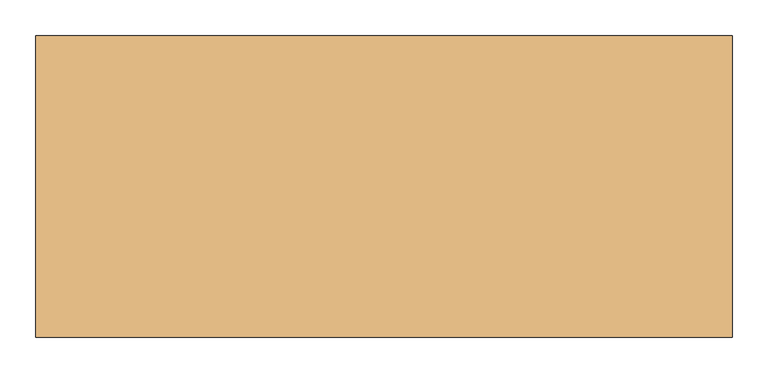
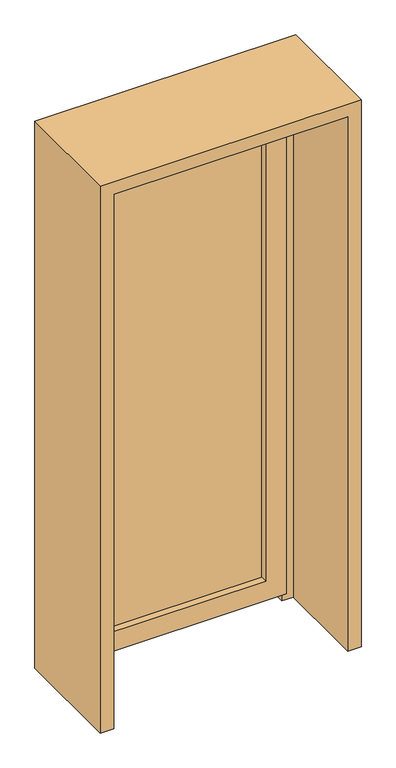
"""IFC4 building model written with IfcOpenShell, lengths in millimetres: door geometry, Внутренняя дверь 1-Навесная - 30970-2002 : ДПВ Г Б Пр 2100-870 ГОСТ 30970-2002."""

from ifc_helpers import new_model, si_unit, frame, origin, place, context, project, spatial, polyline, outline, extrude, faceted_brep, source, transform, mapped, element, save


def door_b74962f7(model_context):
    return source(origin(), model_context, "Body", "SolidModel", [
        extrude(outline(polyline([(-338.0, 183.0), (338.0, 183.0), (338.0, 159.0), (-338.0, 159.0), (-338.0, 183.0)])), frame((0.0, 0.0, 97.0), z_axis=(0.0, 0.0, 1.0), x_axis=(1.0, 0.0, 0.0)), (0.0, 0.0, 1.0), 1906.0),
        faceted_brep([(-323.0, 159.0, 1988.0), (-323.0, 133.0, 1988.0), (-323.0, 133.0, 112.0), (-323.0, 159.0, 112.0), (-338.0, 183.0, 2003.0), (-338.0, 159.0, 2003.0), (-338.0, 159.0, 97.0), (-338.0, 183.0, 97.0), (-323.0, 203.0, 1988.0), (-323.0, 183.0, 1988.0), (-323.0, 183.0, 112.0), (-323.0, 203.0, 112.0), (-380.0, 147.0, 2045.0), (-380.0, 203.0, 2045.0), (-380.0, 203.0, 55.0), (-380.0, 147.0, 55.0), (-400.0, 133.0, 2065.0), (-400.0, 147.0, 2065.0), (-400.0, 147.0, 35.0), (-400.0, 133.0, 35.0), (323.0, 133.0, 112.0), (323.0, 159.0, 112.0), (338.0, 159.0, 97.0), (338.0, 183.0, 97.0), (323.0, 183.0, 112.0), (323.0, 203.0, 112.0), (380.0, 203.0, 55.0), (380.0, 147.0, 55.0), (400.0, 147.0, 35.0), (400.0, 133.0, 35.0), (323.0, 133.0, 1988.0), (323.0, 159.0, 1988.0), (338.0, 159.0, 2003.0), (338.0, 183.0, 2003.0), (323.0, 183.0, 1988.0), (323.0, 203.0, 1988.0), (380.0, 203.0, 2045.0), (380.0, 147.0, 2045.0), (400.0, 147.0, 2065.0), (400.0, 133.0, 2065.0)], [[[0, 1, 2, 3]], [[4, 5, 6, 7]], [[8, 9, 10, 11]], [[12, 13, 14, 15]], [[16, 17, 18, 19]], [[3, 2, 20, 21]], [[7, 6, 22, 23]], [[11, 10, 24, 25]], [[15, 14, 26, 27]], [[19, 18, 28, 29]], [[21, 20, 30, 31]], [[23, 22, 32, 33]], [[25, 24, 34, 35]], [[27, 26, 36, 37]], [[29, 28, 38, 39]], [[31, 30, 1, 0]], [[5, 32, 22, 6], [3, 21, 31, 0]], [[33, 32, 5, 4]], [[7, 23, 33, 4], [9, 34, 24, 10]], [[35, 34, 9, 8]], [[13, 36, 26, 14], [11, 25, 35, 8]], [[37, 36, 13, 12]], [[17, 38, 28, 18], [15, 27, 37, 12]], [[39, 38, 17, 16]], [[19, 29, 39, 16], [1, 30, 20, 2]]]),
        faceted_brep([(372.0, 219.0, 0.0), (435.0, 219.0, 0.0), (435.0, 149.0, 0.0), (392.0, 149.0, 0.0), (392.0, 205.0, 0.0), (372.0, 205.0, 0.0), (372.0, 219.0, 2037.0), (-372.0, 219.0, 2037.0), (-372.0, 219.0, 0.0), (-435.0, 219.0, 0.0), (-435.0, 219.0, 2100.0), (435.0, 219.0, 2100.0), (435.0, 149.0, 2100.0), (-435.0, 149.0, 2100.0), (-435.0, 149.0, 0.0), (-392.0, 149.0, 0.0), (-392.0, 149.0, 2057.0), (392.0, 149.0, 2057.0), (392.0, 205.0, 2057.0), (-392.0, 205.0, 2057.0), (-392.0, 205.0, 0.0), (-372.0, 205.0, 0.0), (-372.0, 205.0, 2037.0), (372.0, 205.0, 2037.0)], [[[0, 1, 2, 3, 4, 5]], [[1, 0, 6, 7, 8, 9, 10, 11]], [[2, 1, 11, 12]], [[3, 2, 12, 13, 14, 15, 16, 17]], [[4, 3, 17, 18]], [[5, 4, 18, 19, 20, 21, 22, 23]], [[0, 5, 23, 6]], [[7, 22, 21, 8]], [[8, 21, 20, 15, 14, 9]], [[13, 10, 9, 14]], [[19, 16, 15, 20]], [[12, 11, 10, 13]], [[18, 17, 16, 19]], [[6, 23, 22, 7]]]),
        extrude(outline(polyline([(0.0, 435.0), (0.0, 485.0), (2150.0, 485.0), (2150.0, -485.0), (0.0, -485.0), (0.0, -435.0), (2100.0, -435.0), (2100.0, 435.0), (0.0, 435.0)])), frame((0.0, -201.0, 0.0), z_axis=(0.0, 1.0, 0.0), x_axis=(0.0, 0.0, 1.0)), (0.0, 0.0, 1.0), 420.0),
    ])


if __name__ == "__main__":
    model = new_model("IFC4")
    model_context = context("Model", 3, world=origin())
    ifc_project = project(units=[si_unit("LENGTHUNIT", "METRE", prefix="MILLI")], contexts=[model_context])
    site = spatial("IfcSite", under=ifc_project)
    building = spatial("IfcBuilding", under=site)
    placement = place(None, origin())
    door_shape = door_b74962f7(model_context)
    element("IfcDoor", 1, ObjectType="Внутренняя дверь 1-Навесная - 30970-2002 : ДПВ Г Б Пр 2100-870 ГОСТ 30970-2002", at=placement, inside=building, context=model_context, shape_type="MappedRepresentation", body=[
        mapped(door_shape, transform((0.0, 0.0, 0.0), x_axis=(1.0, 0.0, 0.0), y_axis=(0.0, 1.0, 0.0), z_axis=(0.0, 0.0, 1.0))),
    ])
    save(model, "model.ifc")
